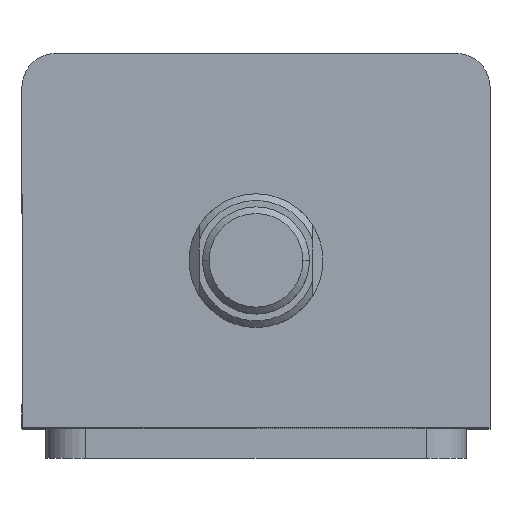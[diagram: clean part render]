
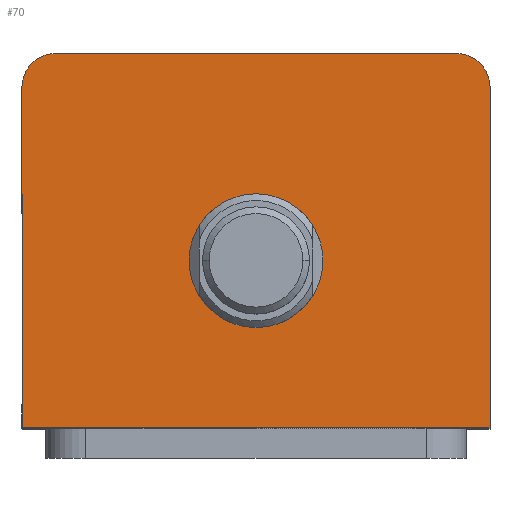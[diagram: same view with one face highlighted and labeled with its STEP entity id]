
A CAD part, top view. The second image highlights one B-rep face of the part: STEP entity #70.
In plain terms, the highlighted planar face has unit normal (0, 0, 1).
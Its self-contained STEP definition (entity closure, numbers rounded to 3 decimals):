
#70 = ADVANCED_FACE ( 'NONE', ( #2762, #2766 ), #943, .T. ) ;
#140 = EDGE_CURVE ( 'NONE', #1434, #1316, #2831, .T. ) ;
#146 = EDGE_CURVE ( 'NONE', #1444, #1434, #2841, .T. ) ;
#189 = EDGE_CURVE ( 'NONE', #1381, #1440, #1848, .T. ) ;
#194 = EDGE_CURVE ( 'NONE', #1451, #1444, #1851, .T. ) ;
#222 = EDGE_CURVE ( 'NONE', #1440, #1381, #1898, .T. ) ;
#289 = EDGE_CURVE ( 'NONE', #1316, #1370, #1980, .T. ) ;
#308 = EDGE_CURVE ( 'NONE', #1370, #1404, #2015, .T. ) ;
#310 = EDGE_CURVE ( 'NONE', #1404, #1451, #1992, .T. ) ;
#327 = AXIS2_PLACEMENT_3D ( 'NONE', #775, #776, #769 ) ;
#365 = AXIS2_PLACEMENT_3D ( 'NONE', #2284, #2281, #2279 ) ;
#431 = AXIS2_PLACEMENT_3D ( 'NONE', #793, #792, #791 ) ;
#474 = AXIS2_PLACEMENT_3D ( 'NONE', #2195, #2194, #2193 ) ;
#672 = CARTESIAN_POINT ( 'NONE',  ( 30., 28., 124. ) ) ;
#765 = DIRECTION ( 'NONE',  ( -1., 0., 0. ) ) ;
#769 = DIRECTION ( 'NONE',  ( 1., 0., 0. ) ) ;
#775 = CARTESIAN_POINT ( 'NONE',  ( -30., 23., 124. ) ) ;
#776 = DIRECTION ( 'NONE',  ( 0., 0., 1. ) ) ;
#777 = CARTESIAN_POINT ( 'NONE',  ( -35., 28., 124. ) ) ;
#791 = DIRECTION ( 'NONE',  ( 1., 0., 0. ) ) ;
#792 = DIRECTION ( 'NONE',  ( 0., 0., 1. ) ) ;
#793 = CARTESIAN_POINT ( 'NONE',  ( 0., -3., 124. ) ) ;
#811 = DIRECTION ( 'NONE',  ( 0., -1., 0. ) ) ;
#816 = CARTESIAN_POINT ( 'NONE',  ( -35., 28., 124. ) ) ;
#939 = DIRECTION ( 'NONE',  ( 1., 0., 0. ) ) ;
#940 = DIRECTION ( 'NONE',  ( 0., 0., 1. ) ) ;
#943 = PLANE ( 'NONE',  #2526 ) ;
#947 = CARTESIAN_POINT ( 'NONE',  ( 0., 0., 124. ) ) ;
#1316 = VERTEX_POINT ( 'NONE', #2149 ) ;
#1370 = VERTEX_POINT ( 'NONE', #3141 ) ;
#1381 = VERTEX_POINT ( 'NONE', #3084 ) ;
#1404 = VERTEX_POINT ( 'NONE', #2977 ) ;
#1434 = VERTEX_POINT ( 'NONE', #2900 ) ;
#1440 = VERTEX_POINT ( 'NONE', #2891 ) ;
#1444 = VERTEX_POINT ( 'NONE', #2890 ) ;
#1451 = VERTEX_POINT ( 'NONE', #672 ) ;
#1718 = ORIENTED_EDGE ( 'NONE', *, *, #289, .T. ) ;
#1719 = ORIENTED_EDGE ( 'NONE', *, *, #140, .T. ) ;
#1720 = ORIENTED_EDGE ( 'NONE', *, *, #146, .T. ) ;
#1721 = ORIENTED_EDGE ( 'NONE', *, *, #194, .T. ) ;
#1722 = ORIENTED_EDGE ( 'NONE', *, *, #310, .T. ) ;
#1723 = ORIENTED_EDGE ( 'NONE', *, *, #308, .T. ) ;
#1724 = ORIENTED_EDGE ( 'NONE', *, *, #189, .F. ) ;
#1725 = ORIENTED_EDGE ( 'NONE', *, *, #222, .F. ) ;
#1813 = EDGE_LOOP ( 'NONE', ( #1723, #1722, #1721, #1720, #1719, #1718 ) ) ;
#1816 = EDGE_LOOP ( 'NONE', ( #1725, #1724 ) ) ;
#1848 = CIRCLE ( 'NONE', #431, 10. ) ;
#1851 = LINE ( 'NONE', #777, #1857 ) ;
#1857 = VECTOR ( 'NONE', #765, 1000. ) ;
#1898 = CIRCLE ( 'NONE', #365, 10. ) ;
#1980 = LINE ( 'NONE', #2268, #1983 ) ;
#1983 = VECTOR ( 'NONE', #2267, 1000. ) ;
#1992 = CIRCLE ( 'NONE', #474, 5. ) ;
#2015 = LINE ( 'NONE', #2213, #2017 ) ;
#2017 = VECTOR ( 'NONE', #2212, 1000. ) ;
#2149 = CARTESIAN_POINT ( 'NONE',  ( -35., -28., 124. ) ) ;
#2193 = DIRECTION ( 'NONE',  ( 1., 0., 0. ) ) ;
#2194 = DIRECTION ( 'NONE',  ( 0., 0., 1. ) ) ;
#2195 = CARTESIAN_POINT ( 'NONE',  ( 30., 23., 124. ) ) ;
#2212 = DIRECTION ( 'NONE',  ( 0., 1., 0. ) ) ;
#2213 = CARTESIAN_POINT ( 'NONE',  ( 35., 28., 124. ) ) ;
#2267 = DIRECTION ( 'NONE',  ( 1., 0., 0. ) ) ;
#2268 = CARTESIAN_POINT ( 'NONE',  ( -35., -28., 124. ) ) ;
#2279 = DIRECTION ( 'NONE',  ( 1., 0., 0. ) ) ;
#2281 = DIRECTION ( 'NONE',  ( 0., 0., 1. ) ) ;
#2284 = CARTESIAN_POINT ( 'NONE',  ( 0., -3., 124. ) ) ;
#2526 = AXIS2_PLACEMENT_3D ( 'NONE', #947, #940, #939 ) ;
#2762 = FACE_BOUND ( 'NONE', #1816, .T. ) ;
#2766 = FACE_OUTER_BOUND ( 'NONE', #1813, .T. ) ;
#2831 = LINE ( 'NONE', #816, #2834 ) ;
#2834 = VECTOR ( 'NONE', #811, 1000. ) ;
#2841 = CIRCLE ( 'NONE', #327, 5. ) ;
#2890 = CARTESIAN_POINT ( 'NONE',  ( -30., 28., 124. ) ) ;
#2891 = CARTESIAN_POINT ( 'NONE',  ( 10., -3., 124. ) ) ;
#2900 = CARTESIAN_POINT ( 'NONE',  ( -35., 23., 124. ) ) ;
#2977 = CARTESIAN_POINT ( 'NONE',  ( 35., 23., 124. ) ) ;
#3084 = CARTESIAN_POINT ( 'NONE',  ( -10., -3., 124. ) ) ;
#3141 = CARTESIAN_POINT ( 'NONE',  ( 35., -28., 124. ) ) ;
